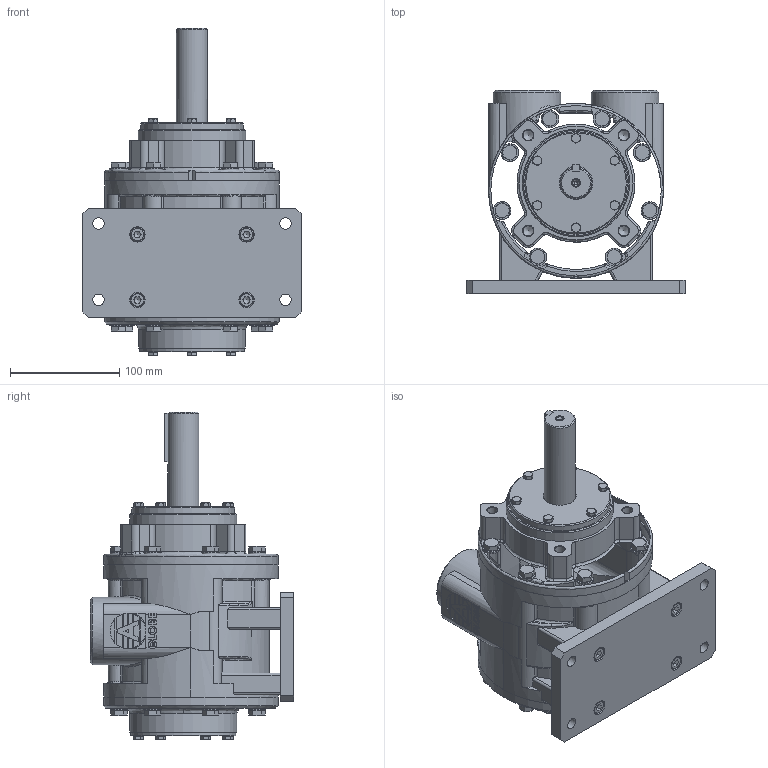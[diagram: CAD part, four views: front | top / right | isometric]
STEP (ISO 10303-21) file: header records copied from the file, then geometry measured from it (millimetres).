
FILE_DESCRIPTION (( 'STEP AP214' ), '1' );
FILE_NAME ('VA10J Defeature + Logo.STEP', '2023-05-23T11:15:27', ( '' ), ( '' ), 'SwSTEP 2.0', 'SolidWorks 2022', '' );
FILE_SCHEMA (( 'AUTOMOTIVE_DESIGN' ));
Length unit declared in the file: millimetre
Products named in the file (1): VA10J Defeature + Logo
Bounding box: 200 x 186.5 x 300.2 mm (x, y, z)
Volume: 3817922 mm3; surface area: 220658 mm2
Topology: 1 solids, 1 shells, 1174 faces, 2866 edges, 1717 vertices
Faces by surface type: plane 632, cylinder 201, cone 195, bspline 130, sphere 16
Full cylindrical faces by diameter (mm): 3 x1, 8 x13, 9.347 x4, 10.5 x4, 13 x20, 14 x4, 16 x16, 28.575 x1, 30 x1, 30.5 x1, 38.952 x2, 62 x2, 94 x1, 96 x1, 98 x1, 98.4 x1, 158 x2, 160 x3
Entity records: 57104 total; most frequent: CARTESIAN_POINT 27436, ORIENTED_EDGE 5328, DIRECTION 4758, EDGE_CURVE 2664, AXIS2_PLACEMENT_3D 1809, VERTEX_POINT 1652, EDGE_LOOP 1348, FACE_OUTER_BOUND 1252
